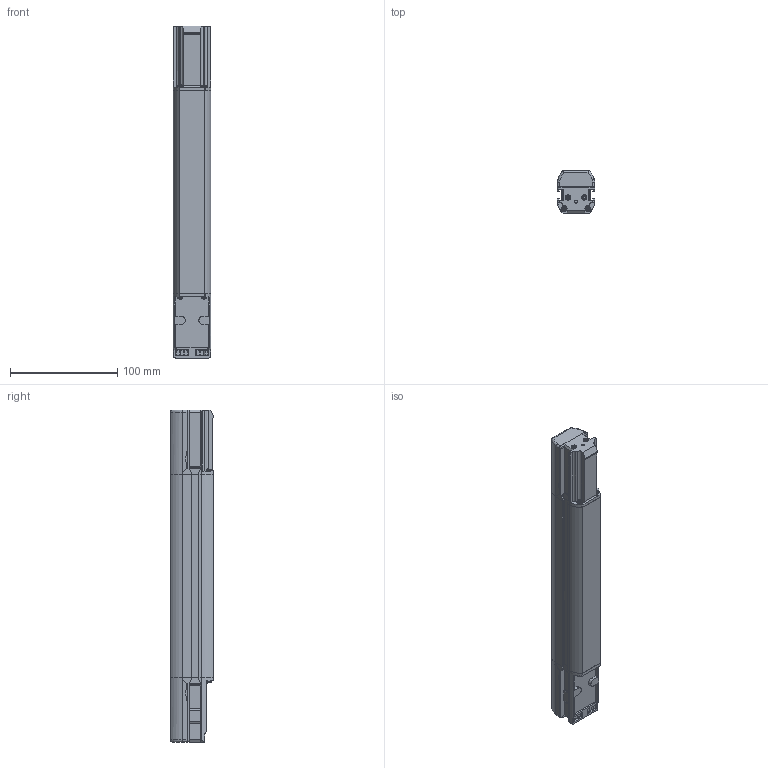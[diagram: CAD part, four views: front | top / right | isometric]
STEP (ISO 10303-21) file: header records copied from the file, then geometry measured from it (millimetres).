
FILE_DESCRIPTION(/* description */ (''),/* implementation_level */ '2;1');
FILE_NAME(/* name */ 'SH4 - 0300 mm DSD Barriera senza Smart Plug.stp',/* time_stamp */ '2022-12-02T18:22:02+01:00',/* author */ (''),/* organization */ (''),/* preprocessor_version */ 'ST-DEVELOPER v16.701',/* originating_system */ 'SIEMENS PLM Software NX 1946',/* authorisation */ '');
FILE_SCHEMA (('AP203_CONFIGURATION_CONTROLLED_3D_DESIGN_OF_MECHANICAL_PARTS_AND_ASSEMBLIES_MIM_LF { 1 0 10303 403 2 1 2}'));
Length unit declared in the file: millimetre
Products named in the file (1): MRos63D4F2E59wu8
Bounding box: 35.08 x 40 x 309 mm (x, y, z)
Volume: 338155.3 mm3; surface area: 87475.8 mm2
Topology: 6 solids, 11 shells, 891 faces, 2428 edges, 1549 vertices
Faces by surface type: plane 363, cylinder 315, bspline 92, cone 55, extrusion 24, sphere 22, torus 20
Full cylindrical faces by diameter (mm): 2.013 x4, 2.2 x4, 3 x4, 4.37 x4, 5 x8
Entity records: 34734 total; most frequent: CARTESIAN_POINT 13104, ORIENTED_EDGE 4576, DIRECTION 3865, EDGE_CURVE 2288, VERTEX_POINT 1515, AXIS2_PLACEMENT_3D 1345, VECTOR 1175, LINE 1151
